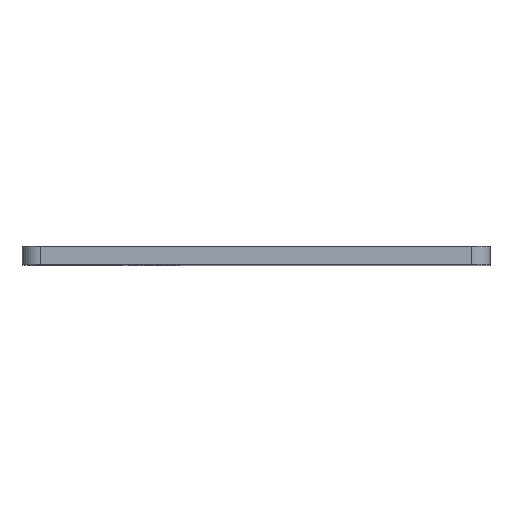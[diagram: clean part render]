
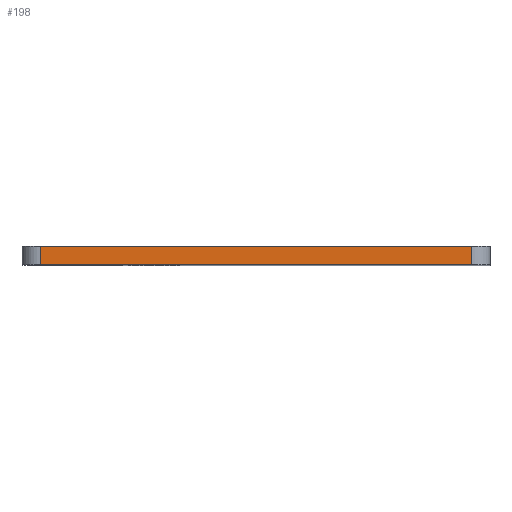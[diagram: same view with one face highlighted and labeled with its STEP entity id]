
A CAD part, top view. The second image highlights one B-rep face of the part: STEP entity #198.
In plain terms, the highlighted planar face has unit normal (0, 0, 1).
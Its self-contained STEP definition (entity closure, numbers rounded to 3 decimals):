
#30 = CARTESIAN_POINT ( 'NONE',  ( 22., 0., 18. ) ) ;
#39 = DIRECTION ( 'NONE',  ( 1., 0., 0. ) ) ;
#55 = EDGE_CURVE ( 'NONE', #119, #528, #527, .T. ) ;
#65 = EDGE_CURVE ( 'NONE', #119, #162, #498, .T. ) ;
#101 = CARTESIAN_POINT ( 'NONE',  ( 25., 0., 18. ) ) ;
#119 = VERTEX_POINT ( 'NONE', #547 ) ;
#120 = EDGE_LOOP ( 'NONE', ( #197, #622, #572, #644 ) ) ;
#144 = FACE_OUTER_BOUND ( 'NONE', #120, .T. ) ;
#162 = VERTEX_POINT ( 'NONE', #209 ) ;
#193 = LINE ( 'NONE', #218, #331 ) ;
#197 = ORIENTED_EDGE ( 'NONE', *, *, #65, .F. ) ;
#198 = ADVANCED_FACE ( 'NONE', ( #144 ), #724, .T. ) ;
#209 = CARTESIAN_POINT ( 'NONE',  ( 95., 3., 18. ) ) ;
#218 = CARTESIAN_POINT ( 'NONE',  ( 22., 0., 18. ) ) ;
#229 = VECTOR ( 'NONE', #563, 1000. ) ;
#242 = CARTESIAN_POINT ( 'NONE',  ( 95., 0., 18. ) ) ;
#266 = DIRECTION ( 'NONE',  ( 1., 0., 0. ) ) ;
#282 = CARTESIAN_POINT ( 'NONE',  ( 95., 0., 18. ) ) ;
#331 = VECTOR ( 'NONE', #266, 1000. ) ;
#444 = CARTESIAN_POINT ( 'NONE',  ( 25., 0., 18. ) ) ;
#454 = EDGE_CURVE ( 'NONE', #676, #162, #553, .T. ) ;
#498 = LINE ( 'NONE', #727, #685 ) ;
#527 = LINE ( 'NONE', #444, #229 ) ;
#528 = VERTEX_POINT ( 'NONE', #101 ) ;
#547 = CARTESIAN_POINT ( 'NONE',  ( 25., 3., 18. ) ) ;
#550 = DIRECTION ( 'NONE',  ( 1., 0., 0. ) ) ;
#553 = LINE ( 'NONE', #242, #690 ) ;
#556 = DIRECTION ( 'NONE',  ( 0., 0., 1. ) ) ;
#563 = DIRECTION ( 'NONE',  ( 0., -1., 0. ) ) ;
#572 = ORIENTED_EDGE ( 'NONE', *, *, #653, .T. ) ;
#622 = ORIENTED_EDGE ( 'NONE', *, *, #55, .T. ) ;
#644 = ORIENTED_EDGE ( 'NONE', *, *, #454, .T. ) ;
#653 = EDGE_CURVE ( 'NONE', #528, #676, #193, .T. ) ;
#676 = VERTEX_POINT ( 'NONE', #282 ) ;
#685 = VECTOR ( 'NONE', #550, 1000. ) ;
#690 = VECTOR ( 'NONE', #697, 1000. ) ;
#697 = DIRECTION ( 'NONE',  ( 0., 1., 0. ) ) ;
#715 = AXIS2_PLACEMENT_3D ( 'NONE', #30, #556, #39 ) ;
#724 = PLANE ( 'NONE',  #715 ) ;
#727 = CARTESIAN_POINT ( 'NONE',  ( 22., 3., 18. ) ) ;
